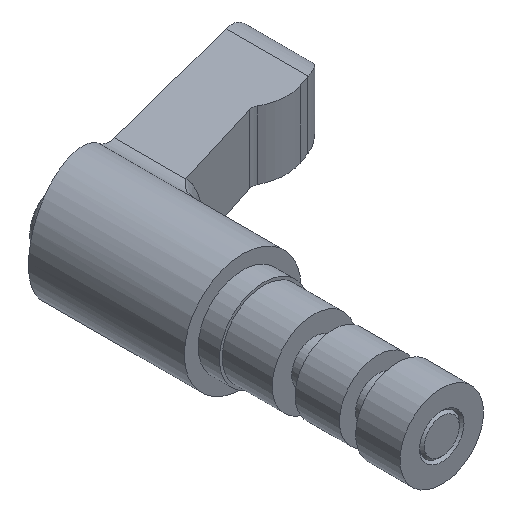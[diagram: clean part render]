
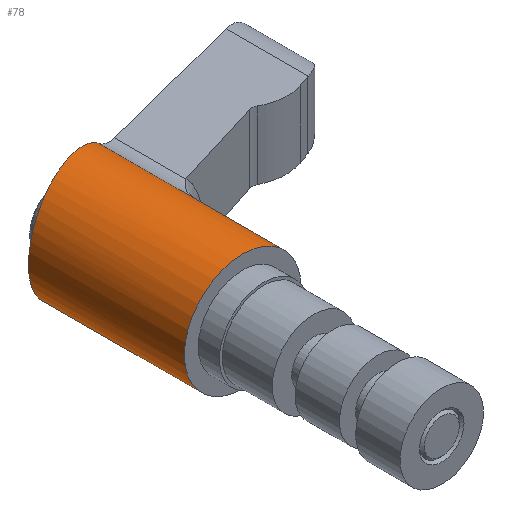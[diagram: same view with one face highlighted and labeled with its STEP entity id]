
A CAD part, isometric view. The second image highlights one B-rep face of the part: STEP entity #78.
In plain terms, the highlighted cylindrical face has radius 5.25 mm (diameter 10.5 mm), a partial arc.
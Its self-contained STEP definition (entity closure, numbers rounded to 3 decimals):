
#78 = ADVANCED_FACE( '', ( #134 ), #135, .T. );
#134 = FACE_OUTER_BOUND( '', #257, .T. );
#135 = CYLINDRICAL_SURFACE( '', #258, 5.25 );
#257 = EDGE_LOOP( '', ( #402, #403, #404, #405 ) );
#258 = AXIS2_PLACEMENT_3D( '', #406, #407, #408 );
#402 = ORIENTED_EDGE( '', *, *, #746, .F. );
#403 = ORIENTED_EDGE( '', *, *, #754, .F. );
#404 = ORIENTED_EDGE( '', *, *, #755, .T. );
#405 = ORIENTED_EDGE( '', *, *, #753, .F. );
#406 = CARTESIAN_POINT( '', ( 0., 17.9, 0. ) );
#407 = DIRECTION( '', ( 0., 1., 0. ) );
#408 = DIRECTION( '', ( 0., 0., -1. ) );
#746 = EDGE_CURVE( '', #859, #861, #862, .T. );
#753 = EDGE_CURVE( '', #861, #871, #874, .T. );
#754 = EDGE_CURVE( '', #875, #859, #876, .T. );
#755 = EDGE_CURVE( '', #875, #871, #877, .T. );
#859 = VERTEX_POINT( '', #1049 );
#861 = VERTEX_POINT( '', #1051 );
#862 = LINE( '', #1052, #1053 );
#871 = VERTEX_POINT( '', #1079 );
#874 = CIRCLE( '', #1085, 5.25 );
#875 = VERTEX_POINT( '', #1086 );
#876 = ELLIPSE( '', #1087, 5.435, 5.25 );
#877 = LINE( '', #1088, #1089 );
#1049 = CARTESIAN_POINT( '', ( 3.38, 34.235, 4.017 ) );
#1051 = CARTESIAN_POINT( '', ( 3.38, 17.9, 4.017 ) );
#1052 = CARTESIAN_POINT( '', ( 3.38, 40.9, 4.017 ) );
#1053 = VECTOR( '', #1385, 1000. );
#1079 = CARTESIAN_POINT( '', ( 3.38, 17.9, -4.017 ) );
#1085 = AXIS2_PLACEMENT_3D( '', #1393, #1394, #1395 );
#1086 = CARTESIAN_POINT( '', ( 3.38, 34.235, -4.017 ) );
#1087 = AXIS2_PLACEMENT_3D( '', #1396, #1397, #1398 );
#1088 = CARTESIAN_POINT( '', ( 3.38, 40.9, -4.017 ) );
#1089 = VECTOR( '', #1399, 1000. );
#1385 = DIRECTION( '', ( 0., -1., 0. ) );
#1393 = CARTESIAN_POINT( '', ( 0., 17.9, 0. ) );
#1394 = DIRECTION( '', ( 0., -1., 0. ) );
#1395 = DIRECTION( '', ( 0., 0., -1. ) );
#1396 = CARTESIAN_POINT( '', ( 0., 33.329, 0. ) );
#1397 = DIRECTION( '', ( -0.259, 0.966, 0. ) );
#1398 = DIRECTION( '', ( -0.966, -0.259, 0. ) );
#1399 = DIRECTION( '', ( 0., -1., 0. ) );
